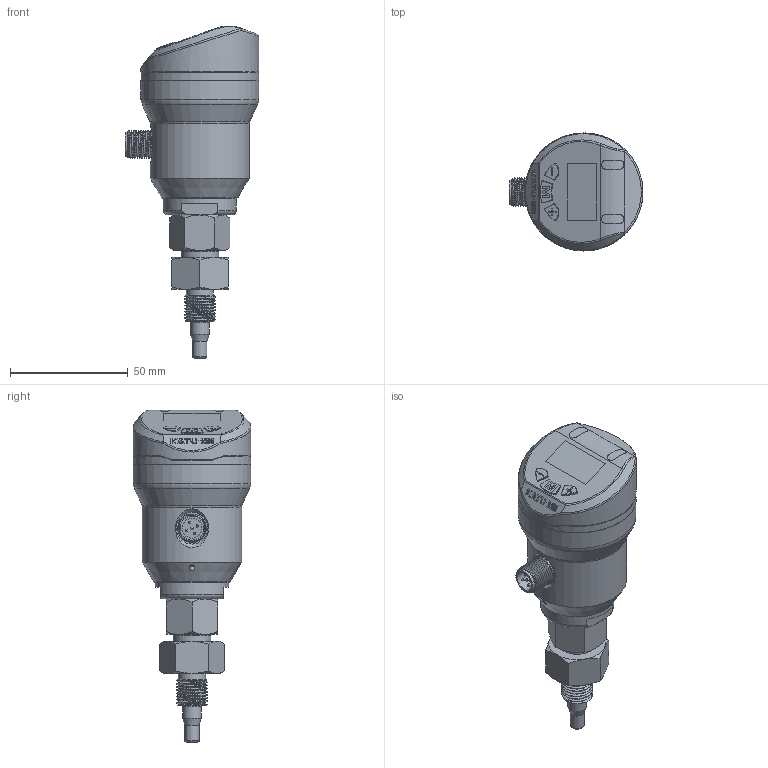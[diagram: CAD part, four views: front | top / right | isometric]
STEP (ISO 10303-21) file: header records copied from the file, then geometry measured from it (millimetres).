
FILE_DESCRIPTION( (''), '2;1');
FILE_NAME( 'QEKE_M18_L60_M18X1.5_G1-4_adapter.step', '2026-06-25T11:03:55+08:00', (''), (''), '', '', '');
FILE_SCHEMA (('AP203_CONFIGURATION_CONTROLLED_3D_DESIGN_OF_MECHANICAL_PARTS_AND_ASSEMBLIES_MIM_LF { 1 0 10303 403 2 1 2}'));
Length unit declared in the file: millimetre
Products named in the file (1): QEKE M18_L60_M18X1.5_G1-4_adapter
Bounding box: 56.7 x 50 x 140.7 mm (x, y, z)
Volume: 101539.5 mm3; surface area: 41903.3 mm2
Topology: 13 solids, 13 shells, 659 faces, 1626 edges, 1046 vertices
Faces by surface type: plane 339, cylinder 151, cone 71, bspline 55, torus 32, sphere 11
Full cylindrical faces by diameter (mm): 1 x10, 2.5 x1, 2.7 x5, 3.1 x1, 3.5 x2, 6 x2, 6.5 x1, 7 x1, 8 x3, 8.4 x1, 8.5 x1, 9.7 x1, 9.8 x1, 10.1 x1, 11 x1, 11.5 x1, 11.6 x1, 12 x2, 13.4 x1, 13.7 x1, 15.4 x1, 16 x1, 16.1 x1, 16.5 x6, 23 x3, 26.1 x5, 31 x1, 42 x1, 48 x1, 50 x3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
Entity records: 25202 total; most frequent: CARTESIAN_POINT 9921, ORIENTED_EDGE 2894, DIRECTION 2850, EDGE_CURVE 1447, AXIS2_PLACEMENT_3D 1047, VERTEX_POINT 978, EDGE_LOOP 829, LINE 756
